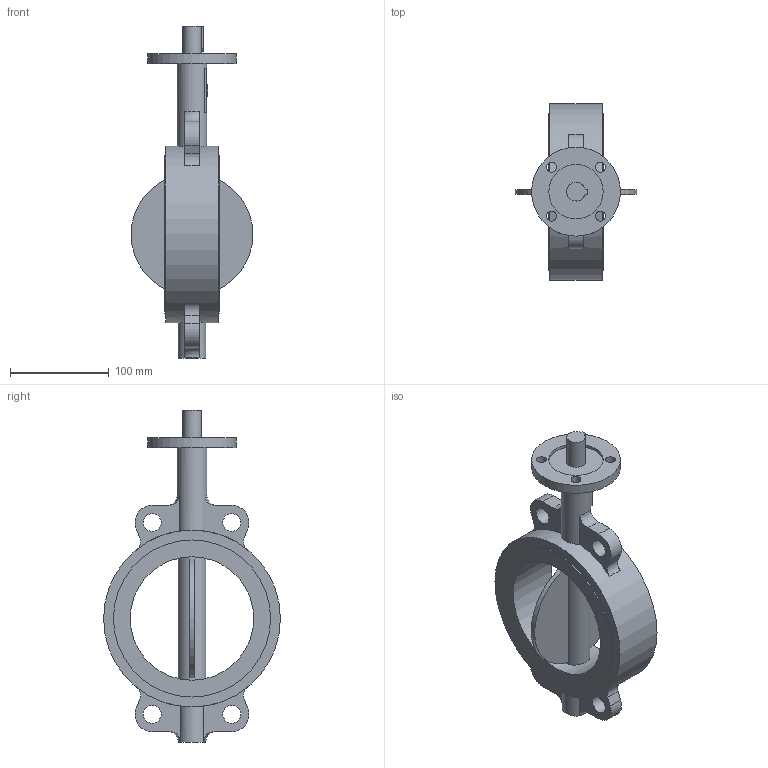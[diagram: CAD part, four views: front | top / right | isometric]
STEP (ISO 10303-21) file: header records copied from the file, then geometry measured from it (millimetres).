
FILE_DESCRIPTION(('STEP AP203'), '1');
FILE_NAME('青蜮铕 017W.Y_DN125_PN10_PN16', '', ('UNSPECIFIED'), ('UNSPECIFIED'), 'ASCON STEP Converter 1.6', 'ASCON Math Kernel', '');
FILE_SCHEMA(('CONFIG_CONTROL_DESIGN'));
Length unit declared in the file: millimetre
Bounding box: 123.3 x 179 x 336 mm (x, y, z)
Volume: 1027269.1 mm3; surface area: 146728.6 mm2
Topology: 1 solids, 1 shells, 89 faces, 220 edges, 146 vertices
Faces by surface type: plane 48, cylinder 37, torus 4
Full cylindrical faces by diameter (mm): 10 x4, 18 x4, 18.9 x1, 28 x2, 30 x1, 55 x1, 90 x1, 125 x1, 159 x2, 179 x1
Entity records: 4772 total; most frequent: CARTESIAN_POINT 1880, DIRECTION 452, ORIENTED_EDGE 404, EDGE_CURVE 202, AXIS2_PLACEMENT_3D 180, VERTEX_POINT 146, EDGE_LOOP 140, FACE_BOUND 107
